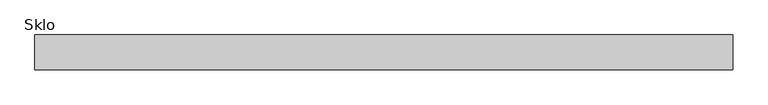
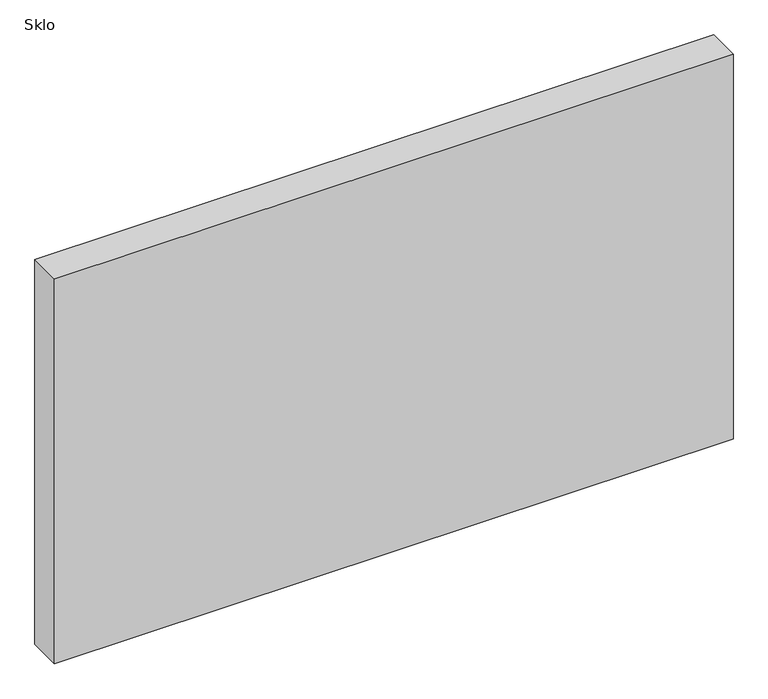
"""IFC4 building model written with IfcOpenShell, lengths in millimetres: plate geometry, Systémový panel : Sklo."""

from ifc_helpers import new_model, si_unit, origin, origin_with_axes, place, context, project, spatial, polyline, outline, extrude, source, transform, mapped, element, save


def sklo_1a5bc644(model_context):
    return source(origin(), model_context, "Body", "SweptSolid", [
        extrude(outline(polyline([(1000.0, 50.0), (-1000.0, 50.0), (-1000.0, 150.0), (1000.0, 150.0), (1000.0, 50.0)])), origin_with_axes(), (0.0, 0.0, 1.0), 1200.0),
    ])


if __name__ == "__main__":
    model = new_model("IFC4")
    model_context = context("Model", 3, world=origin())
    ifc_project = project(units=[si_unit("LENGTHUNIT", "METRE", prefix="MILLI")], contexts=[model_context])
    site = spatial("IfcSite", under=ifc_project)
    building = spatial("IfcBuilding", under=site)
    placement = place(None, origin())
    sklo_shape = sklo_1a5bc644(model_context)
    element("IfcPlate", 1, ObjectType="Systémový panel : Sklo", at=placement, inside=building, context=model_context, shape_type="MappedRepresentation", body=[
        mapped(sklo_shape, transform((0.0, 0.0, 0.0), x_axis=(1.0, 0.0, 0.0), y_axis=(0.0, 1.0, 0.0), z_axis=(0.0, 0.0, 1.0))),
    ])
    save(model, "model.ifc")
